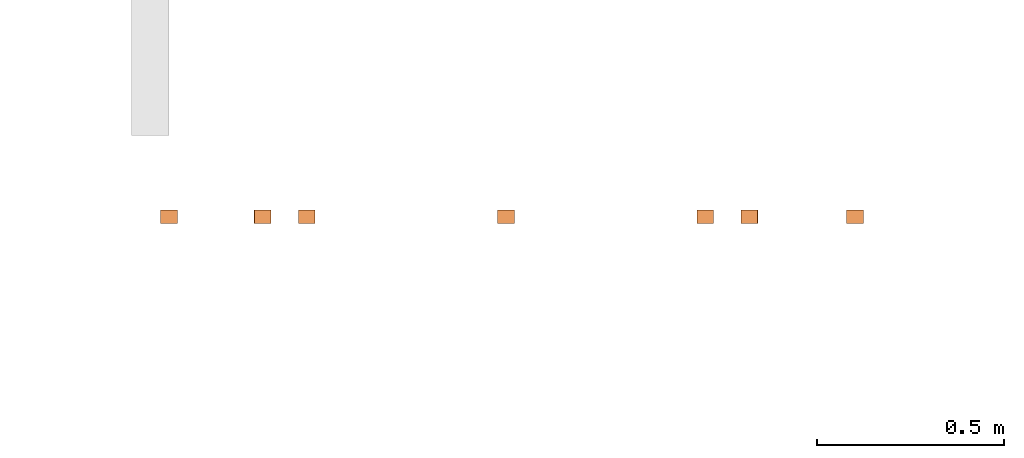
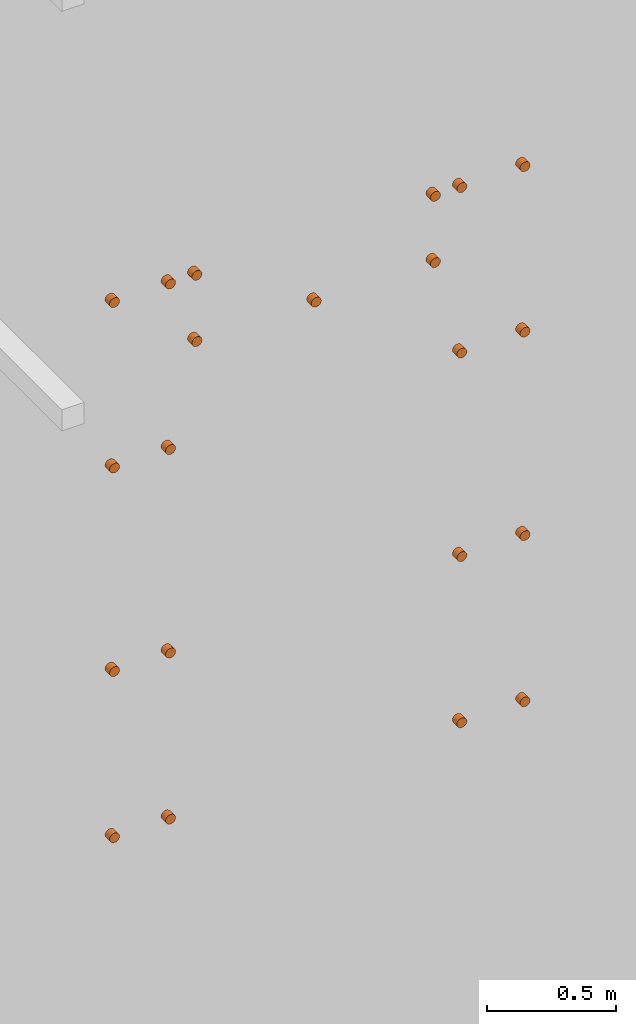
# One storey, part 47 of 69: 21 proxies.
"""IFC2X3 building model written with IfcOpenShell, lengths in millimetres."""

from ifc_helpers import new_model, entity, si_unit, converted_unit, derived_unit, money_unit, direction, frame, origin_with_axes, place, context, subcontext, project, spatial, faceted_brep, source, transform, mapped, type_object, element, save


model = new_model("IFC2X3")

# Units and contexts
model_context = context("Model", 3, precision=0.01, world=origin_with_axes(), true_north=direction((0.0, 1.0)))
body_context = subcontext(model_context, "Body", "Model", "MODEL_VIEW")
ifc_project = project(units=[si_unit("LENGTHUNIT", "METRE", prefix="MILLI"), si_unit("AREAUNIT", "SQUARE_METRE"), si_unit("VOLUMEUNIT", "CUBIC_METRE"), converted_unit("PLANEANGLEUNIT", "DEGREE", entity("IfcPlaneAngleMeasure", 0.0174532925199), si_unit("PLANEANGLEUNIT", "RADIAN"), dimensions=[0, 0, 0, 0, 0, 0, 0]), si_unit("SOLIDANGLEUNIT", "STERADIAN"), money_unit("EUR"), converted_unit("TIMEUNIT", "Year", entity("IfcTimeMeasure", 31556926.0), si_unit("TIMEUNIT", "SECOND"), dimensions=[0, 0, 1, 0, 0, 0, 0]), si_unit("MASSUNIT", "GRAM", prefix="KILO"), si_unit("THERMODYNAMICTEMPERATUREUNIT", "DEGREE_CELSIUS"), si_unit("LUMINOUSINTENSITYUNIT", "LUMEN"), si_unit("ENERGYUNIT", "JOULE", prefix="MEGA"), derived_unit("THERMALCONDUCTANCEUNIT", [(si_unit("POWERUNIT", "WATT"), 1), (si_unit("LENGTHUNIT", "METRE"), -1), (si_unit("THERMODYNAMICTEMPERATUREUNIT", "KELVIN"), -1)]), derived_unit("SPECIFICHEATCAPACITYUNIT", [(si_unit("ENERGYUNIT", "JOULE"), 1), (si_unit("MASSUNIT", "GRAM", prefix="KILO"), -1), (si_unit("THERMODYNAMICTEMPERATUREUNIT", "KELVIN"), -1)]), derived_unit("MASSDENSITYUNIT", [(si_unit("MASSUNIT", "GRAM", prefix="KILO"), 1), (si_unit("VOLUMEUNIT", "CUBIC_METRE"), -1)])], contexts=[model_context])

# Site, building, storey
site_placement = place(None, origin_with_axes())
site = spatial("IfcSite", under=ifc_project, at=site_placement, Name="Puškini 31, Narva", CompositionType="ELEMENT")
building_placement = place(site_placement, origin_with_axes())
building = spatial("IfcBuilding", under=site, at=building_placement, Name="Narva Riigigümnaasium", CompositionType="ELEMENT")
storey_placement = place(building_placement, origin_with_axes())
storey = spatial("IfcBuildingStorey", under=building, at=storey_placement, Name="1.korrus 0.00", CompositionType="ELEMENT", Elevation=0.0)

# Proxies
building_element_proxy_type = type_object("IfcBuildingElementProxyType", Name="Cylinder 23", PredefinedType="NOTDEFINED")
shared_shape = source(origin_with_axes(), body_context, "Body", "Brep", [
    faceted_brep([(0.0, -3.90708399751, -22.1581744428), (0.0, 0.0, -22.5), (35.0, 0.0, -22.5), (35.0, -3.90708399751, -22.1581744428), (0.0, -7.69545322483, -21.1430839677), (0.0, -11.25, -19.4855715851), (0.0, -14.4627212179, -17.2359999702), (0.0, -17.2359999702, -14.4627212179), (0.0, -19.4855715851, -11.25), (0.0, -21.1430839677, -7.69545322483), (0.0, -22.1581744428, -3.90708399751), (0.0, -22.5, 0.0), (0.0, -22.1581744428, 3.90708399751), (0.0, -21.1430839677, 7.69545322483), (0.0, -19.4855715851, 11.25), (0.0, -17.2359999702, 14.4627212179), (0.0, -14.4627212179, 17.2359999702), (0.0, -11.25, 19.4855715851), (0.0, -7.69545322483, 21.1430839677), (0.0, -3.90708399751, 22.1581744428), (0.0, 0.0, 22.5), (0.0, 3.90708399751, 22.1581744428), (0.0, 7.69545322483, 21.1430839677), (0.0, 11.25, 19.4855715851), (0.0, 14.4627212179, 17.2359999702), (0.0, 17.2359999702, 14.4627212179), (0.0, 19.4855715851, 11.25), (0.0, 21.1430839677, 7.69545322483), (0.0, 22.1581744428, 3.90708399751), (0.0, 22.5, 0.0), (0.0, 22.1581744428, -3.90708399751), (0.0, 21.1430839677, -7.69545322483), (0.0, 19.4855715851, -11.25), (0.0, 17.2359999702, -14.4627212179), (0.0, 14.4627212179, -17.2359999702), (0.0, 11.25, -19.4855715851), (0.0, 7.69545322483, -21.1430839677), (0.0, 3.90708399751, -22.1581744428), (35.0, 3.90708399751, -22.1581744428), (35.0, 7.69545322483, -21.1430839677), (35.0, 11.25, -19.4855715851), (35.0, 14.4627212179, -17.2359999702), (35.0, 17.2359999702, -14.4627212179), (35.0, 19.4855715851, -11.25), (35.0, 21.1430839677, -7.69545322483), (35.0, 22.1581744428, -3.90708399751), (35.0, 22.5, 0.0), (35.0, 22.1581744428, 3.90708399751), (35.0, 21.1430839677, 7.69545322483), (35.0, 19.4855715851, 11.25), (35.0, 17.2359999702, 14.4627212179), (35.0, 14.4627212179, 17.2359999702), (35.0, 11.25, 19.4855715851), (35.0, 7.69545322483, 21.1430839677), (35.0, 3.90708399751, 22.1581744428), (35.0, 0.0, 22.5), (35.0, -3.90708399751, 22.1581744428), (35.0, -7.69545322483, 21.1430839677), (35.0, -11.25, 19.4855715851), (35.0, -14.4627212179, 17.2359999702), (35.0, -17.2359999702, 14.4627212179), (35.0, -19.4855715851, 11.25), (35.0, -21.1430839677, 7.69545322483), (35.0, -22.1581744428, 3.90708399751), (35.0, -22.5, 0.0), (35.0, -22.1581744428, -3.90708399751), (35.0, -21.1430839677, -7.69545322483), (35.0, -19.4855715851, -11.25), (35.0, -17.2359999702, -14.4627212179), (35.0, -14.4627212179, -17.2359999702), (35.0, -11.25, -19.4855715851), (35.0, -7.69545322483, -21.1430839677)], [[[0, 1, 2, 3]], [[0, 4, 5, 6, 7, 8, 9, 10, 11, 12, 13, 14, 15, 16, 17, 18, 19, 20, 21, 22, 23, 24, 25, 26, 27, 28, 29, 30, 31, 32, 33, 34, 35, 36, 37, 1]], [[1, 37, 38, 2]], [[3, 2, 38, 39, 40, 41, 42, 43, 44, 45, 46, 47, 48, 49, 50, 51, 52, 53, 54, 55, 56, 57, 58, 59, 60, 61, 62, 63, 64, 65, 66, 67, 68, 69, 70, 71]], [[4, 0, 3, 71]], [[5, 4, 71, 70]], [[6, 5, 70, 69]], [[7, 6, 69, 68]], [[8, 7, 68, 67]], [[9, 8, 67, 66]], [[10, 9, 66, 65]], [[11, 10, 65, 64]], [[12, 11, 64, 63]], [[13, 12, 63, 62]], [[14, 13, 62, 61]], [[15, 14, 61, 60]], [[16, 15, 60, 59]], [[17, 16, 59, 58]], [[18, 17, 58, 57]], [[19, 18, 57, 56]], [[20, 19, 56, 55]], [[21, 20, 55, 54]], [[22, 21, 54, 53]], [[23, 22, 53, 52]], [[24, 23, 52, 51]], [[25, 24, 51, 50]], [[26, 25, 50, 49]], [[27, 26, 49, 48]], [[28, 27, 48, 47]], [[29, 28, 47, 46]], [[30, 29, 46, 45]], [[31, 30, 45, 44]], [[32, 31, 44, 43]], [[33, 32, 43, 42]], [[34, 33, 42, 41]], [[35, 34, 41, 40]], [[36, 35, 40, 39]], [[37, 36, 39, 38]]]),
])
for number, where, z_axis, x_axis in (
    (1, (45849.9999993, 194950.0, 1323.00001822), (0.0, 0.0, 1.0), (0.0, -1.0, 0.0)),
    (2, (47149.9999993, 194950.0, 1323.00001822), (0.0, 0.0, 1.0), (0.0, -1.0, 0.0)),
    (3, (47432.0594655, 194950.0, 1323.00001822), (0.0, 0.0, 1.0), (0.0, -1.0, 0.0)),
    (4, (45599.9999993, 194950.0, 1323.00001822), (0.0, 0.0, 1.0), (0.0, -1.0, 0.0)),
    (5, (46500.0, 194950.0, 1010.00001822), (0.0, 0.0, 1.0), (0.0, -1.0, 0.0)),
    (6, (45849.9999993, 194950.0, 542.000018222), (0.0, 0.0, 1.0), (0.0, -1.0, 0.0)),
    (7, (47149.9999993, 194950.0, 542.000018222), (0.0, 0.0, 1.0), (0.0, -1.0, 0.0)),
    (8, (47432.0594655, 194950.0, 542.000018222), (0.0, 0.0, 1.0), (0.0, -1.0, 0.0)),
    (9, (45599.9999993, 194950.0, 542.000018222), (0.0, 0.0, 1.0), (0.0, -1.0, 0.0)),
    (10, (45849.9999993, 194950.0, -417.999981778), (0.0, 0.0, 1.0), (0.0, -1.0, 0.0)),
    (11, (47149.9999993, 194950.0, -417.999981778), (0.0, 0.0, 1.0), (0.0, -1.0, 0.0)),
    (12, (47432.0594655, 194950.0, -417.999981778), (0.0, 0.0, 1.0), (0.0, -1.0, 0.0)),
    (13, (45599.9999993, 194950.0, -417.999981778), (0.0, 0.0, 1.0), (0.0, -1.0, 0.0)),
    (14, (45849.9999993, 194950.0, -1201.99998178), (0.0, 0.0, 1.0), (0.0, -1.0, 0.0)),
    (15, (47149.9999993, 194950.0, -1201.99998178), (0.0, 0.0, 1.0), (0.0, -1.0, 0.0)),
    (16, (47432.0594655, 194950.0, -1201.99998178), (0.0, 0.0, 1.0), (0.0, -1.0, 0.0)),
    (17, (45599.9999993, 194950.0, -1201.99998178), (0.0, 0.0, 1.0), (0.0, -1.0, 0.0)),
    (18, (45967.9999993, 194950.0, 1323.00001822), (0.0, 0.0, 1.0), (0.0, -1.0, 0.0)),
    (19, (45967.9999993, 194950.0, 1010.00001822), (0.0, 0.0, 1.0), (0.0, -1.0, 0.0)),
    (20, (47031.9999993, 194950.0, 1323.00001822), (0.0, 0.0, 1.0), (0.0, -1.0, 0.0)),
    (21, (47031.9999993, 194950.0, 1010.00001822), (0.0, 0.0, 1.0), (0.0, -1.0, 0.0)),
):
    element("IfcBuildingElementProxy", number, at=place(storey_placement, frame(where, z_axis=z_axis, x_axis=x_axis)), inside=storey, type_object=building_element_proxy_type, Name="MÖÖBEL", context=body_context, shape_type="MappedRepresentation", body=[
        mapped(shared_shape, transform((0.0, 0.0, 0.0))),
    ])

save(model, "model.ifc")
